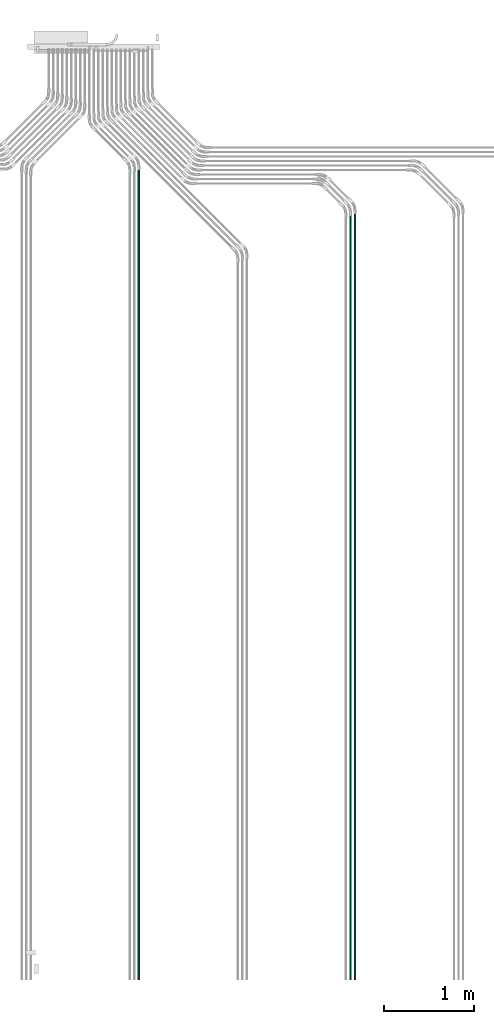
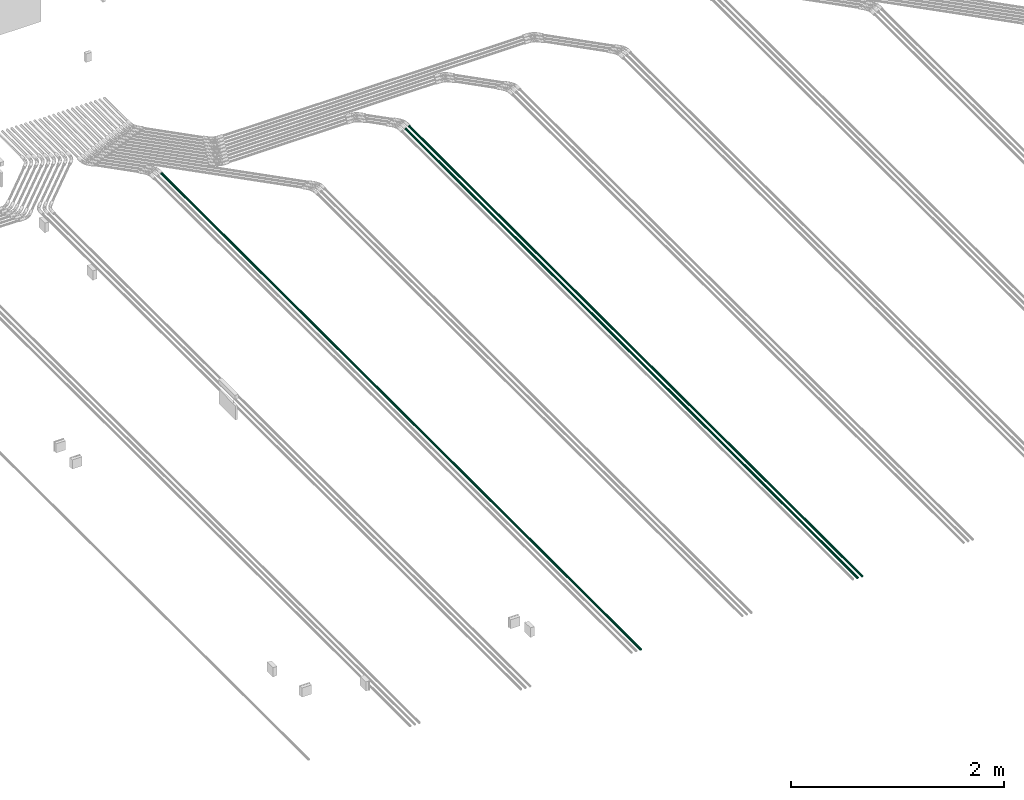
# One storey, part 34 of 51: 3 flow segments.
"""IFC2X3 building model written with IfcOpenShell, lengths in millimetres."""

from ifc_helpers import new_model, entity, si_unit, converted_unit, derived_unit, direction, frame, place, context, subcontext, project, spatial, faceted_brep, type_object, element, save


model = new_model("IFC2X3")

# Units and contexts
model_context = context("Model", 3, precision=0.01, world=frame((0.0, 4.29681676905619e-09, 0.0)), true_north=direction((4.01073788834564e-13, 1.0)))
plan_context = context("Plan", 3, precision=0.01, world=frame((0.0, 4.29681676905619e-09, 0.0)), true_north=direction((4.01073788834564e-13, 1.0)))
body_context = subcontext(model_context, "Body", "Model", "MODEL_VIEW")
ifc_project = project(units=[converted_unit("PLANEANGLEUNIT", "DEGREE", entity("IfcPositiveLengthMeasure", 0.0174532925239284), si_unit("PLANEANGLEUNIT", "RADIAN"), dimensions=[0, 0, 0, 0, 0, 0, 0]), si_unit("AREAUNIT", "SQUARE_METRE"), si_unit("LENGTHUNIT", "METRE", prefix="MILLI"), si_unit("MASSUNIT", "GRAM", prefix="KILO"), si_unit("POWERUNIT", "WATT"), si_unit("PRESSUREUNIT", "PASCAL"), si_unit("FORCEUNIT", "NEWTON", prefix="KILO"), si_unit("ELECTRICVOLTAGEUNIT", "VOLT"), si_unit("ELECTRICCURRENTUNIT", "AMPERE"), si_unit("THERMODYNAMICTEMPERATUREUNIT", "DEGREE_CELSIUS"), si_unit("TIMEUNIT", "SECOND"), si_unit("VOLUMEUNIT", "CUBIC_METRE"), derived_unit("LINEARVELOCITYUNIT", [(si_unit("LENGTHUNIT", "METRE"), 1), (si_unit("TIMEUNIT", "SECOND"), -1)]), derived_unit("VOLUMETRICFLOWRATEUNIT", [(si_unit("VOLUMEUNIT", "CUBIC_METRE"), 1), (si_unit("TIMEUNIT", "SECOND"), -1)]), derived_unit("THERMALTRANSMITTANCEUNIT", [(si_unit("POWERUNIT", "WATT"), 1), (si_unit("THERMODYNAMICTEMPERATUREUNIT", "KELVIN"), -1), (si_unit("AREAUNIT", "SQUARE_METRE"), -1)]), derived_unit("SOUNDPRESSUREUNIT", [(si_unit("PRESSUREUNIT", "PASCAL"), 1)])], contexts=[model_context, plan_context])

# Site, building, storey
site_placement = place(None, frame((0.0, -4.29681676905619e-09, 0.0), z_axis=(0.0, 0.0, 1.0), x_axis=(1.0, 0.0, 0.0)))
site = spatial("IfcSite", under=ifc_project, at=site_placement, Name="ENGM", CompositionType="ELEMENT")
building_placement = place(site_placement, frame((0.0, 4.29681676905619e-09, 0.0), z_axis=(0.0, 0.0, 1.0), x_axis=(1.0, 0.0, 0.0)))
building = spatial("IfcBuilding", under=site, at=building_placement, Name="TI", CompositionType="ELEMENT")
storey_placement = place(building_placement, frame((0.0, 0.0, 210900.0), z_axis=(0.0, 0.0, 1.0), x_axis=(1.0, 0.0, 0.0)))
storey = spatial("IfcBuildingStorey", under=building, at=storey_placement, Name="Nivå F", CompositionType="ELEMENT", Elevation=210900.0)

# Flow segments
cable_carrier_segment_type = type_object("IfcCableCarrierSegmentType", Name="Trekkerør, korrugert", PredefinedType="CONDUITSEGMENT")
flow_segment_1_placement = place(storey_placement, frame((601625.0, 697997.77822, -56.7999999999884), z_axis=(0.0, 0.0, 1.0), x_axis=(0.0, -1.0, 0.0)))
element("IfcFlowSegment", 1, at=flow_segment_1_placement, inside=storey, type_object=cable_carrier_segment_type, Name="Trekkerør, korrugert", context=body_context, shape_type="Brep", body=[
    faceted_brep([(8997.77822000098, 10.5, 0.0), (8997.77822000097, 10.3404814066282, -1.82330586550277), (0.0, 10.3404814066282, -1.82330586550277), (0.0, 10.5, 0.0), (8997.77822000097, 9.86677251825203, -3.59121150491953), (0.0, 9.86677251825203, -3.59121150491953), (8997.77822000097, 9.0932667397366, -5.25), (0.0, 9.0932667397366, -5.25), (8997.77822000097, 8.04346665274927, -6.74926990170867), (0.0, 8.04346665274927, -6.74926990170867), (8997.77822000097, 6.74926990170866, -8.04346665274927), (0.0, 6.74926990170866, -8.04346665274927), (8997.77822000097, 5.25, -9.09326673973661), (0.0, 5.25, -9.09326673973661), (8997.77822000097, 3.59121150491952, -9.86677251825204), (0.0, 3.59121150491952, -9.86677251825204), (8997.77822000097, 1.82330586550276, -10.3404814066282), (0.0, 1.82330586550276, -10.3404814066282), (8997.77822000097, -1.92881870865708e-15, -10.5), (0.0, -1.92881870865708e-15, -10.5), (8997.77822000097, -1.82330586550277, -10.3404814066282), (0.0, -1.82330586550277, -10.3404814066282), (8997.77822000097, -3.59121150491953, -9.86677251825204), (0.0, -3.59121150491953, -9.86677251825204), (8997.77822000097, -5.25, -9.0932667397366), (0.0, -5.25, -9.0932667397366), (8997.77822000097, -6.74926990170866, -8.04346665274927), (0.0, -6.74926990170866, -8.04346665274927), (8997.77822000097, -8.04346665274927, -6.74926990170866), (0.0, -8.04346665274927, -6.74926990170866), (8997.77822000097, -9.09326673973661, -5.25), (0.0, -9.09326673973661, -5.25), (8997.77822000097, -9.86677251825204, -3.59121150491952), (0.0, -9.86677251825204, -3.59121150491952), (8997.77822000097, -10.3404814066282, -1.82330586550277), (0.0, -10.3404814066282, -1.82330586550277), (8997.77822000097, -10.5, 1.28587913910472e-15), (0.0, -10.5, 1.28587913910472e-15), (8997.77822000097, -10.3404814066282, 1.82330586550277), (0.0, -10.3404814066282, 1.82330586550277), (8997.77822000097, -9.86677251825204, 3.59121150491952), (0.0, -9.86677251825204, 3.59121150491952), (8997.77822000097, -9.09326673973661, 5.25), (0.0, -9.09326673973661, 5.25), (8997.77822000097, -8.04346665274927, 6.74926990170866), (0.0, -8.04346665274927, 6.74926990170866), (8997.77822000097, -6.74926990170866, 8.04346665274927), (0.0, -6.74926990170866, 8.04346665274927), (8997.77822000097, -5.25, 9.09326673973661), (0.0, -5.25, 9.09326673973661), (8997.77822000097, -3.59121150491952, 9.86677251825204), (0.0, -3.59121150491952, 9.86677251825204), (8997.77822000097, -1.82330586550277, 10.3404814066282), (0.0, -1.82330586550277, 10.3404814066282), (8997.77822000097, 6.4293956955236e-16, 10.5), (0.0, 6.4293956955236e-16, 10.5), (8997.77822000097, 1.82330586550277, 10.3404814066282), (0.0, 1.82330586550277, 10.3404814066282), (8997.77822000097, 3.59121150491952, 9.86677251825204), (0.0, 3.59121150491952, 9.86677251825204), (8997.77822000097, 5.25, 9.09326673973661), (0.0, 5.25, 9.09326673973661), (8997.77822000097, 6.74926990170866, 8.04346665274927), (0.0, 6.74926990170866, 8.04346665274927), (8997.77822000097, 8.04346665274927, 6.74926990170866), (0.0, 8.04346665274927, 6.74926990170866), (8997.77822000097, 9.09326673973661, 5.25), (0.0, 9.09326673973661, 5.25), (8997.77822000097, 9.86677251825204, 3.59121150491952), (0.0, 9.86677251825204, 3.59121150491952), (8997.77822000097, 10.3404814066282, 1.82330586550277), (0.0, 10.3404814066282, 1.82330586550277), (8997.77822000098, 12.3100969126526, -2.17060222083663), (8997.77822000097, 12.5, 0.0), (0.0, 12.5, 0.0), (0.0, 12.3100969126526, -2.17060222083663), (8997.77822000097, 12.3100969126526, 2.17060222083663), (0.0, 12.3100969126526, 2.17060222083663), (8997.77822000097, 11.7461577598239, 4.27525179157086), (0.0, 11.7461577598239, 4.27525179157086), (8997.77822000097, 10.8253175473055, 6.25), (0.0, 10.8253175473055, 6.25), (8997.77822000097, 9.57555553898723, 8.03484512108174), (0.0, 9.57555553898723, 8.03484512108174), (8997.77822000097, 8.03484512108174, 9.57555553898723), (0.0, 8.03484512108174, 9.57555553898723), (8997.77822000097, 6.25, 10.8253175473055), (0.0, 6.25, 10.8253175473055), (8997.77822000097, 4.27525179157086, 11.7461577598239), (0.0, 4.27525179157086, 11.7461577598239), (8997.77822000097, 2.17060222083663, 12.3100969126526), (0.0, 2.17060222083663, 12.3100969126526), (8997.77822000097, 7.65404249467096e-16, 12.5), (0.0, 7.65404249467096e-16, 12.5), (8997.77822000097, -2.17060222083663, 12.3100969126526), (0.0, -2.17060222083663, 12.3100969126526), (8997.77822000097, -4.27525179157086, 11.7461577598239), (0.0, -4.27525179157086, 11.7461577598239), (8997.77822000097, -6.25, 10.8253175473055), (0.0, -6.25, 10.8253175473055), (8997.77822000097, -8.03484512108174, 9.57555553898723), (0.0, -8.03484512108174, 9.57555553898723), (8997.77822000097, -9.57555553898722, 8.03484512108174), (0.0, -9.57555553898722, 8.03484512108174), (8997.77822000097, -10.8253175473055, 6.25), (0.0, -10.8253175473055, 6.25), (8997.77822000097, -11.7461577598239, 4.27525179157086), (0.0, -11.7461577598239, 4.27525179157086), (8997.77822000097, -12.3100969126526, 2.17060222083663), (0.0, -12.3100969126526, 2.17060222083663), (8997.77822000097, -12.5, 1.53080849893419e-15), (0.0, -12.5, 1.53080849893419e-15), (8997.77822000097, -12.3100969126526, -2.17060222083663), (0.0, -12.3100969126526, -2.17060222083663), (8997.77822000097, -11.7461577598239, -4.27525179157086), (0.0, -11.7461577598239, -4.27525179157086), (8997.77822000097, -10.8253175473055, -6.25), (0.0, -10.8253175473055, -6.25), (8997.77822000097, -9.57555553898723, -8.03484512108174), (0.0, -9.57555553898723, -8.03484512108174), (8997.77822000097, -8.03484512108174, -9.57555553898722), (0.0, -8.03484512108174, -9.57555553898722), (8997.77822000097, -6.25000000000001, -10.8253175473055), (0.0, -6.25000000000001, -10.8253175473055), (8997.77822000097, -4.27525179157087, -11.7461577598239), (0.0, -4.27525179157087, -11.7461577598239), (8997.77822000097, -2.17060222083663, -12.3100969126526), (0.0, -2.17060222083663, -12.3100969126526), (8997.77822000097, -2.29621274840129e-15, -12.5), (0.0, -2.29621274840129e-15, -12.5), (8997.77822000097, 2.17060222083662, -12.3100969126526), (0.0, 2.17060222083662, -12.3100969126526), (8997.77822000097, 4.27525179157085, -11.7461577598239), (0.0, 4.27525179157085, -11.7461577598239), (8997.77822000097, 6.25, -10.8253175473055), (0.0, 6.25, -10.8253175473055), (8997.77822000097, 8.03484512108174, -9.57555553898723), (0.0, 8.03484512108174, -9.57555553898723), (8997.77822000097, 9.57555553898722, -8.03484512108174), (0.0, 9.57555553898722, -8.03484512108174), (8997.77822000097, 10.8253175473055, -6.25000000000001), (0.0, 10.8253175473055, -6.25000000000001), (8997.77822000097, 11.7461577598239, -4.27525179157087), (0.0, 11.7461577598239, -4.27525179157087)], [[[0, 1, 2, 3]], [[1, 4, 5, 2]], [[4, 6, 7, 5]], [[6, 8, 9, 7]], [[8, 10, 11, 9]], [[10, 12, 13, 11]], [[12, 14, 15, 13]], [[14, 16, 17, 15]], [[16, 18, 19, 17]], [[18, 20, 21, 19]], [[20, 22, 23, 21]], [[22, 24, 25, 23]], [[24, 26, 27, 25]], [[26, 28, 29, 27]], [[28, 30, 31, 29]], [[30, 32, 33, 31]], [[32, 34, 35, 33]], [[34, 36, 37, 35]], [[36, 38, 39, 37]], [[38, 40, 41, 39]], [[40, 42, 43, 41]], [[42, 44, 45, 43]], [[44, 46, 47, 45]], [[46, 48, 49, 47]], [[48, 50, 51, 49]], [[50, 52, 53, 51]], [[52, 54, 55, 53]], [[54, 56, 57, 55]], [[56, 58, 59, 57]], [[58, 60, 61, 59]], [[60, 62, 63, 61]], [[62, 64, 65, 63]], [[64, 66, 67, 65]], [[66, 68, 69, 67]], [[68, 70, 71, 69]], [[70, 0, 3, 71]], [[72, 73, 74, 75]], [[73, 76, 77, 74]], [[76, 78, 79, 77]], [[78, 80, 81, 79]], [[80, 82, 83, 81]], [[82, 84, 85, 83]], [[84, 86, 87, 85]], [[86, 88, 89, 87]], [[88, 90, 91, 89]], [[90, 92, 93, 91]], [[92, 94, 95, 93]], [[94, 96, 97, 95]], [[96, 98, 99, 97]], [[98, 100, 101, 99]], [[100, 102, 103, 101]], [[102, 104, 105, 103]], [[104, 106, 107, 105]], [[106, 108, 109, 107]], [[108, 110, 111, 109]], [[110, 112, 113, 111]], [[112, 114, 115, 113]], [[114, 116, 117, 115]], [[116, 118, 119, 117]], [[118, 120, 121, 119]], [[120, 122, 123, 121]], [[122, 124, 125, 123]], [[124, 126, 127, 125]], [[126, 128, 129, 127]], [[128, 130, 131, 129]], [[130, 132, 133, 131]], [[132, 134, 135, 133]], [[134, 136, 137, 135]], [[136, 138, 139, 137]], [[138, 140, 141, 139]], [[140, 142, 143, 141]], [[142, 72, 75, 143]], [[75, 74, 77, 79, 81, 83, 85, 87, 89, 91, 93, 95, 97, 99, 101, 103, 105, 107, 109, 111, 113, 115, 117, 119, 121, 123, 125, 127, 129, 131, 133, 135, 137, 139, 141, 143], [3, 2, 5, 7, 9, 11, 13, 15, 17, 19, 21, 23, 25, 27, 29, 31, 33, 35, 37, 39, 41, 43, 45, 47, 49, 51, 53, 55, 57, 59, 61, 63, 65, 67, 69, 71]], [[142, 140, 138, 136, 134, 132, 130, 128, 126, 124, 122, 120, 118, 116, 114, 112, 110, 108, 106, 104, 102, 100, 98, 96, 94, 92, 90, 88, 86, 84, 82, 80, 78, 76, 73, 72], [70, 68, 66, 64, 62, 60, 58, 56, 54, 52, 50, 48, 46, 44, 42, 40, 38, 36, 34, 32, 30, 28, 26, 24, 22, 20, 18, 16, 14, 12, 10, 8, 6, 4, 1, 0]]], orient=[[False], [False], [False], [False], [False], [False], [False], [False], [False], [False], [False], [False], [False], [False], [False], [False], [False], [False], [False], [False], [False], [False], [False], [False], [False], [False], [False], [False], [False], [False], [False], [False], [False], [False], [False], [False], [False], [False], [False], [False], [False], [False], [False], [False], [False], [False], [False], [False], [False], [False], [False], [False], [False], [False], [False], [False], [False], [False], [False], [False], [False], [False], [False], [False], [False], [False], [False], [False], [False], [False], [False], [False], [False, False], [False, False]]),
])
flow_segment_2_placement = place(storey_placement, frame((603974.59, 677849.68631, -56.7999999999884), z_axis=(0.0, 0.0, 1.0), x_axis=(0.0, 1.0, 0.0)))
element("IfcFlowSegment", 2, at=flow_segment_2_placement, inside=storey, type_object=cable_carrier_segment_type, Name="Trekkerør, korrugert", context=body_context, shape_type="Brep", body=[
    faceted_brep([(11150.313689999, 10.3404814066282, -1.82330586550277), (11150.313689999, 10.5, 0.0), (19634.6, 10.5, 0.0), (19634.6, 10.3404814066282, -1.82330586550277), (11150.313689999, 9.86677251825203, -3.59121150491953), (19634.6, 9.86677251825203, -3.59121150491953), (11150.313689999, 9.0932667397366, -5.25), (19634.6, 9.0932667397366, -5.25), (11150.313689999, 8.04346665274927, -6.74926990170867), (19634.6, 8.04346665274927, -6.74926990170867), (11150.313689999, 6.74926990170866, -8.04346665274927), (19634.6, 6.74926990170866, -8.04346665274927), (11150.313689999, 5.25, -9.09326673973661), (19634.6, 5.25, -9.09326673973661), (11150.313689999, 3.59121150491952, -9.86677251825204), (19634.6, 3.59121150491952, -9.86677251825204), (11150.313689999, 1.82330586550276, -10.3404814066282), (19634.6, 1.82330586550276, -10.3404814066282), (11150.313689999, -1.92881870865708e-15, -10.5), (19634.6, -1.92881870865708e-15, -10.5), (11150.313689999, -1.82330586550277, -10.3404814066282), (19634.6, -1.82330586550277, -10.3404814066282), (11150.313689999, -3.59121150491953, -9.86677251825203), (19634.6, -3.59121150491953, -9.86677251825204), (11150.313689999, -5.25, -9.0932667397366), (19634.6, -5.25, -9.0932667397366), (11150.313689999, -6.74926990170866, -8.04346665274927), (19634.6, -6.74926990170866, -8.04346665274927), (11150.313689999, -8.04346665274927, -6.74926990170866), (19634.6, -8.04346665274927, -6.74926990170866), (11150.313689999, -9.09326673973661, -5.25), (19634.6, -9.09326673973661, -5.25), (11150.313689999, -9.86677251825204, -3.59121150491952), (19634.6, -9.86677251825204, -3.59121150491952), (11150.313689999, -10.3404814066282, -1.82330586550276), (19634.6, -10.3404814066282, -1.82330586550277), (11150.313689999, -10.5, 1.28587913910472e-15), (19634.6, -10.5, 1.28587913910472e-15), (11150.313689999, -10.3404814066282, 1.82330586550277), (19634.6, -10.3404814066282, 1.82330586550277), (11150.313689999, -9.86677251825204, 3.59121150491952), (19634.6, -9.86677251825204, 3.59121150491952), (11150.313689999, -9.09326673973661, 5.25), (19634.6, -9.09326673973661, 5.25), (11150.313689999, -8.04346665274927, 6.74926990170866), (19634.6, -8.04346665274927, 6.74926990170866), (11150.313689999, -6.74926990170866, 8.04346665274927), (19634.6, -6.74926990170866, 8.04346665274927), (11150.313689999, -5.25, 9.09326673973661), (19634.6, -5.25, 9.09326673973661), (11150.313689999, -3.59121150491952, 9.86677251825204), (19634.6, -3.59121150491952, 9.86677251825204), (11150.313689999, -1.82330586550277, 10.3404814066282), (19634.6, -1.82330586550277, 10.3404814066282), (11150.313689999, 6.4293956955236e-16, 10.5), (19634.6, 6.4293956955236e-16, 10.5), (11150.313689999, 1.82330586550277, 10.3404814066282), (19634.6, 1.82330586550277, 10.3404814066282), (11150.313689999, 3.59121150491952, 9.86677251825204), (19634.6, 3.59121150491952, 9.86677251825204), (11150.313689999, 5.25, 9.09326673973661), (19634.6, 5.25, 9.09326673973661), (11150.313689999, 6.74926990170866, 8.04346665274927), (19634.6, 6.74926990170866, 8.04346665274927), (11150.313689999, 8.04346665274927, 6.74926990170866), (19634.6, 8.04346665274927, 6.74926990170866), (11150.313689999, 9.09326673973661, 5.25), (19634.6, 9.09326673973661, 5.25), (11150.313689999, 9.86677251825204, 3.59121150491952), (19634.6, 9.86677251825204, 3.59121150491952), (11150.313689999, 10.3404814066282, 1.82330586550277), (19634.6, 10.3404814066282, 1.82330586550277), (11150.313689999, 12.5, 0.0), (11150.313689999, 12.3100969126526, -2.17060222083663), (19634.6, 12.3100969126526, -2.17060222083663), (19634.6, 12.5, 0.0), (11150.313689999, 12.3100969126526, 2.17060222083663), (19634.6, 12.3100969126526, 2.17060222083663), (11150.313689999, 11.7461577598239, 4.27525179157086), (19634.6, 11.7461577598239, 4.27525179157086), (11150.313689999, 10.8253175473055, 6.25), (19634.6, 10.8253175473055, 6.25), (11150.313689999, 9.57555553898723, 8.03484512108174), (19634.6, 9.57555553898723, 8.03484512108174), (11150.313689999, 8.03484512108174, 9.57555553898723), (19634.6, 8.03484512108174, 9.57555553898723), (11150.313689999, 6.25, 10.8253175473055), (19634.6, 6.25, 10.8253175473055), (11150.313689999, 4.27525179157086, 11.7461577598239), (19634.6, 4.27525179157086, 11.7461577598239), (11150.313689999, 2.17060222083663, 12.3100969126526), (19634.6, 2.17060222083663, 12.3100969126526), (11150.313689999, 7.65404249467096e-16, 12.5), (19634.6, 7.65404249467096e-16, 12.5), (11150.313689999, -2.17060222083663, 12.3100969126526), (19634.6, -2.17060222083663, 12.3100969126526), (11150.313689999, -4.27525179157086, 11.7461577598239), (19634.6, -4.27525179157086, 11.7461577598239), (11150.313689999, -6.25, 10.8253175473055), (19634.6, -6.25, 10.8253175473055), (11150.313689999, -8.03484512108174, 9.57555553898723), (19634.6, -8.03484512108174, 9.57555553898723), (11150.313689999, -9.57555553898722, 8.03484512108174), (19634.6, -9.57555553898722, 8.03484512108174), (11150.313689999, -10.8253175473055, 6.25), (19634.6, -10.8253175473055, 6.25), (11150.313689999, -11.7461577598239, 4.27525179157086), (19634.6, -11.7461577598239, 4.27525179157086), (11150.313689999, -12.3100969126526, 2.17060222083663), (19634.6, -12.3100969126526, 2.17060222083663), (11150.313689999, -12.5, 1.53080849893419e-15), (19634.6, -12.5, 1.53080849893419e-15), (11150.313689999, -12.3100969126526, -2.17060222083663), (19634.6, -12.3100969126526, -2.17060222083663), (11150.313689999, -11.7461577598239, -4.27525179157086), (19634.6, -11.7461577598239, -4.27525179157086), (11150.313689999, -10.8253175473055, -6.25), (19634.6, -10.8253175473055, -6.25), (11150.313689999, -9.57555553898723, -8.03484512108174), (19634.6, -9.57555553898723, -8.03484512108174), (11150.313689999, -8.03484512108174, -9.57555553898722), (19634.6, -8.03484512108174, -9.57555553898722), (11150.313689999, -6.25000000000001, -10.8253175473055), (19634.6, -6.25000000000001, -10.8253175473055), (11150.313689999, -4.27525179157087, -11.7461577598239), (19634.6, -4.27525179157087, -11.7461577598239), (11150.313689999, -2.17060222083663, -12.3100969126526), (19634.6, -2.17060222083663, -12.3100969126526), (11150.313689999, -2.29621274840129e-15, -12.5), (19634.6, -2.29621274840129e-15, -12.5), (11150.313689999, 2.17060222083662, -12.3100969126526), (19634.6, 2.17060222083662, -12.3100969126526), (11150.313689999, 4.27525179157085, -11.7461577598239), (19634.6, 4.27525179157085, -11.7461577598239), (11150.313689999, 6.25, -10.8253175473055), (19634.6, 6.25, -10.8253175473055), (11150.313689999, 8.03484512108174, -9.57555553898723), (19634.6, 8.03484512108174, -9.57555553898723), (11150.313689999, 9.57555553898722, -8.03484512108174), (19634.6, 9.57555553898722, -8.03484512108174), (11150.313689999, 10.8253175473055, -6.25000000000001), (19634.6, 10.8253175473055, -6.25000000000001), (11150.313689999, 11.7461577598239, -4.27525179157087), (19634.6, 11.7461577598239, -4.27525179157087)], [[[0, 1, 2, 3]], [[4, 0, 3, 5]], [[6, 4, 5, 7]], [[8, 6, 7, 9]], [[10, 8, 9, 11]], [[12, 10, 11, 13]], [[14, 12, 13, 15]], [[16, 14, 15, 17]], [[18, 16, 17, 19]], [[20, 18, 19, 21]], [[22, 20, 21, 23]], [[24, 22, 23, 25]], [[26, 24, 25, 27]], [[28, 26, 27, 29]], [[30, 28, 29, 31]], [[32, 30, 31, 33]], [[34, 32, 33, 35]], [[36, 34, 35, 37]], [[38, 36, 37, 39]], [[40, 38, 39, 41]], [[42, 40, 41, 43]], [[44, 42, 43, 45]], [[46, 44, 45, 47]], [[48, 46, 47, 49]], [[50, 48, 49, 51]], [[52, 50, 51, 53]], [[54, 52, 53, 55]], [[56, 54, 55, 57]], [[58, 56, 57, 59]], [[60, 58, 59, 61]], [[62, 60, 61, 63]], [[64, 62, 63, 65]], [[66, 64, 65, 67]], [[68, 66, 67, 69]], [[70, 68, 69, 71]], [[1, 70, 71, 2]], [[72, 73, 74, 75]], [[76, 72, 75, 77]], [[78, 76, 77, 79]], [[80, 78, 79, 81]], [[82, 80, 81, 83]], [[84, 82, 83, 85]], [[86, 84, 85, 87]], [[88, 86, 87, 89]], [[90, 88, 89, 91]], [[92, 90, 91, 93]], [[94, 92, 93, 95]], [[96, 94, 95, 97]], [[98, 96, 97, 99]], [[100, 98, 99, 101]], [[102, 100, 101, 103]], [[104, 102, 103, 105]], [[106, 104, 105, 107]], [[108, 106, 107, 109]], [[110, 108, 109, 111]], [[112, 110, 111, 113]], [[114, 112, 113, 115]], [[116, 114, 115, 117]], [[118, 116, 117, 119]], [[120, 118, 119, 121]], [[122, 120, 121, 123]], [[124, 122, 123, 125]], [[126, 124, 125, 127]], [[128, 126, 127, 129]], [[130, 128, 129, 131]], [[132, 130, 131, 133]], [[134, 132, 133, 135]], [[136, 134, 135, 137]], [[138, 136, 137, 139]], [[140, 138, 139, 141]], [[142, 140, 141, 143]], [[73, 142, 143, 74]], [[75, 74, 143, 141, 139, 137, 135, 133, 131, 129, 127, 125, 123, 121, 119, 117, 115, 113, 111, 109, 107, 105, 103, 101, 99, 97, 95, 93, 91, 89, 87, 85, 83, 81, 79, 77], [2, 71, 69, 67, 65, 63, 61, 59, 57, 55, 53, 51, 49, 47, 45, 43, 41, 39, 37, 35, 33, 31, 29, 27, 25, 23, 21, 19, 17, 15, 13, 11, 9, 7, 5, 3]], [[76, 78, 80, 82, 84, 86, 88, 90, 92, 94, 96, 98, 100, 102, 104, 106, 108, 110, 112, 114, 116, 118, 120, 122, 124, 126, 128, 130, 132, 134, 136, 138, 140, 142, 73, 72], [4, 6, 8, 10, 12, 14, 16, 18, 20, 22, 24, 26, 28, 30, 32, 34, 36, 38, 40, 42, 44, 46, 48, 50, 52, 54, 56, 58, 60, 62, 64, 66, 68, 70, 1, 0]]], orient=[[False], [False], [False], [False], [False], [False], [False], [False], [False], [False], [False], [False], [False], [False], [False], [False], [False], [False], [False], [False], [False], [False], [False], [False], [False], [False], [False], [False], [False], [False], [False], [False], [False], [False], [False], [False], [False], [False], [False], [False], [False], [False], [False], [False], [False], [False], [False], [False], [False], [False], [False], [False], [False], [False], [False], [False], [False], [False], [False], [False], [False], [False], [False], [False], [False], [False], [False], [False], [False], [False], [False], [False], [False, False], [False, False]]),
])
flow_segment_3_placement = place(storey_placement, frame((604024.59, 677828.97563, -56.7999999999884), z_axis=(0.0, 0.0, 1.0), x_axis=(0.0, 1.0, 0.0)))
element("IfcFlowSegment", 3, at=flow_segment_3_placement, inside=storey, type_object=cable_carrier_segment_type, Name="Trekkerør, korrugert", context=body_context, shape_type="Brep", body=[
    faceted_brep([(11171.024369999, 10.3404814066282, -1.82330586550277), (11171.024369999, 10.5, 0.0), (19676.0, 10.5, 0.0), (19676.0, 10.3404814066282, -1.82330586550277), (11171.024369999, 9.86677251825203, -3.59121150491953), (19676.0, 9.86677251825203, -3.59121150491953), (11171.024369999, 9.0932667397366, -5.25), (19676.0, 9.0932667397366, -5.25), (11171.024369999, 8.04346665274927, -6.74926990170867), (19676.0, 8.04346665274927, -6.74926990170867), (11171.024369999, 6.74926990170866, -8.04346665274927), (19676.0, 6.74926990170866, -8.04346665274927), (11171.024369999, 5.25, -9.09326673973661), (19676.0, 5.25, -9.09326673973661), (11171.024369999, 3.59121150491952, -9.86677251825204), (19676.0, 3.59121150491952, -9.86677251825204), (11171.024369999, 1.82330586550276, -10.3404814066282), (19676.0, 1.82330586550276, -10.3404814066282), (11171.024369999, -1.92881870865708e-15, -10.5), (19676.0, -1.92881870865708e-15, -10.5), (11171.024369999, -1.82330586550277, -10.3404814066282), (19676.0, -1.82330586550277, -10.3404814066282), (11171.024369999, -3.59121150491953, -9.86677251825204), (19676.0, -3.59121150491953, -9.86677251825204), (11171.024369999, -5.25, -9.0932667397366), (19676.0, -5.25, -9.0932667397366), (11171.024369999, -6.74926990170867, -8.04346665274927), (19676.0, -6.74926990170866, -8.04346665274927), (11171.024369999, -8.04346665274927, -6.74926990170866), (19676.0, -8.04346665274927, -6.74926990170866), (11171.024369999, -9.09326673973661, -5.25), (19676.0, -9.09326673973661, -5.25), (11171.024369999, -9.86677251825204, -3.59121150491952), (19676.0, -9.86677251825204, -3.59121150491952), (11171.024369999, -10.3404814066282, -1.82330586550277), (19676.0, -10.3404814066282, -1.82330586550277), (11171.024369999, -10.5, 1.28587913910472e-15), (19676.0, -10.5, 1.28587913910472e-15), (11171.024369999, -10.3404814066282, 1.82330586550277), (19676.0, -10.3404814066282, 1.82330586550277), (11171.024369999, -9.86677251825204, 3.59121150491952), (19676.0, -9.86677251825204, 3.59121150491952), (11171.024369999, -9.09326673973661, 5.25), (19676.0, -9.09326673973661, 5.25), (11171.024369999, -8.04346665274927, 6.74926990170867), (19676.0, -8.04346665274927, 6.74926990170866), (11171.024369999, -6.74926990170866, 8.04346665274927), (19676.0, -6.74926990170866, 8.04346665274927), (11171.024369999, -5.25, 9.09326673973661), (19676.0, -5.25, 9.09326673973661), (11171.024369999, -3.59121150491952, 9.86677251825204), (19676.0, -3.59121150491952, 9.86677251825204), (11171.024369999, -1.82330586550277, 10.3404814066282), (19676.0, -1.82330586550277, 10.3404814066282), (11171.024369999, 6.42939569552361e-16, 10.5), (19676.0, 6.4293956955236e-16, 10.5), (11171.024369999, 1.82330586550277, 10.3404814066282), (19676.0, 1.82330586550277, 10.3404814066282), (11171.024369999, 3.59121150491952, 9.86677251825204), (19676.0, 3.59121150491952, 9.86677251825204), (11171.024369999, 5.25, 9.09326673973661), (19676.0, 5.25, 9.09326673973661), (11171.024369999, 6.74926990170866, 8.04346665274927), (19676.0, 6.74926990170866, 8.04346665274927), (11171.024369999, 8.04346665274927, 6.74926990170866), (19676.0, 8.04346665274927, 6.74926990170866), (11171.024369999, 9.09326673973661, 5.25), (19676.0, 9.09326673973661, 5.25), (11171.024369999, 9.86677251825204, 3.59121150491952), (19676.0, 9.86677251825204, 3.59121150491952), (11171.024369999, 10.3404814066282, 1.82330586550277), (19676.0, 10.3404814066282, 1.82330586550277), (11171.024369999, 12.5, 0.0), (11171.024369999, 12.3100969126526, -2.17060222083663), (19676.0, 12.3100969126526, -2.17060222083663), (19676.0, 12.5, 0.0), (11171.024369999, 12.3100969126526, 2.17060222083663), (19676.0, 12.3100969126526, 2.17060222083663), (11171.024369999, 11.7461577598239, 4.27525179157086), (19676.0, 11.7461577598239, 4.27525179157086), (11171.024369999, 10.8253175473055, 6.25), (19676.0, 10.8253175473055, 6.25), (11171.024369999, 9.57555553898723, 8.03484512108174), (19676.0, 9.57555553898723, 8.03484512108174), (11171.024369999, 8.03484512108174, 9.57555553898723), (19676.0, 8.03484512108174, 9.57555553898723), (11171.024369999, 6.25, 10.8253175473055), (19676.0, 6.25, 10.8253175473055), (11171.024369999, 4.27525179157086, 11.7461577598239), (19676.0, 4.27525179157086, 11.7461577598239), (11171.024369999, 2.17060222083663, 12.3100969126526), (19676.0, 2.17060222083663, 12.3100969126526), (11171.024369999, 7.65404249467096e-16, 12.5), (19676.0, 7.65404249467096e-16, 12.5), (11171.024369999, -2.17060222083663, 12.3100969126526), (19676.0, -2.17060222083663, 12.3100969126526), (11171.024369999, -4.27525179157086, 11.7461577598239), (19676.0, -4.27525179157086, 11.7461577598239), (11171.024369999, -6.25, 10.8253175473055), (19676.0, -6.25, 10.8253175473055), (11171.024369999, -8.03484512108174, 9.57555553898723), (19676.0, -8.03484512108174, 9.57555553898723), (11171.024369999, -9.57555553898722, 8.03484512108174), (19676.0, -9.57555553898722, 8.03484512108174), (11171.024369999, -10.8253175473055, 6.25), (19676.0, -10.8253175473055, 6.25), (11171.024369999, -11.7461577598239, 4.27525179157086), (19676.0, -11.7461577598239, 4.27525179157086), (11171.024369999, -12.3100969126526, 2.17060222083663), (19676.0, -12.3100969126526, 2.17060222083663), (11171.024369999, -12.5, 1.53080849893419e-15), (19676.0, -12.5, 1.53080849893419e-15), (11171.024369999, -12.3100969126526, -2.17060222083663), (19676.0, -12.3100969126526, -2.17060222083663), (11171.024369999, -11.7461577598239, -4.27525179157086), (19676.0, -11.7461577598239, -4.27525179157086), (11171.024369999, -10.8253175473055, -6.25), (19676.0, -10.8253175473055, -6.25), (11171.024369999, -9.57555553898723, -8.03484512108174), (19676.0, -9.57555553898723, -8.03484512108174), (11171.024369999, -8.03484512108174, -9.57555553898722), (19676.0, -8.03484512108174, -9.57555553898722), (11171.024369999, -6.25000000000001, -10.8253175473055), (19676.0, -6.25000000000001, -10.8253175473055), (11171.024369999, -4.27525179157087, -11.7461577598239), (19676.0, -4.27525179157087, -11.7461577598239), (11171.024369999, -2.17060222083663, -12.3100969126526), (19676.0, -2.17060222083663, -12.3100969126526), (11171.024369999, -2.29621274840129e-15, -12.5), (19676.0, -2.29621274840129e-15, -12.5), (11171.024369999, 2.17060222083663, -12.3100969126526), (19676.0, 2.17060222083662, -12.3100969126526), (11171.024369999, 4.27525179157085, -11.7461577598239), (19676.0, 4.27525179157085, -11.7461577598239), (11171.024369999, 6.25, -10.8253175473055), (19676.0, 6.25, -10.8253175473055), (11171.024369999, 8.03484512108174, -9.57555553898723), (19676.0, 8.03484512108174, -9.57555553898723), (11171.024369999, 9.57555553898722, -8.03484512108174), (19676.0, 9.57555553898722, -8.03484512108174), (11171.024369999, 10.8253175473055, -6.25000000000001), (19676.0, 10.8253175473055, -6.25000000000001), (11171.024369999, 11.7461577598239, -4.27525179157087), (19676.0, 11.7461577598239, -4.27525179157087)], [[[0, 1, 2, 3]], [[4, 0, 3, 5]], [[6, 4, 5, 7]], [[8, 6, 7, 9]], [[10, 8, 9, 11]], [[12, 10, 11, 13]], [[14, 12, 13, 15]], [[16, 14, 15, 17]], [[18, 16, 17, 19]], [[20, 18, 19, 21]], [[22, 20, 21, 23]], [[24, 22, 23, 25]], [[26, 24, 25, 27]], [[28, 26, 27, 29]], [[30, 28, 29, 31]], [[32, 30, 31, 33]], [[34, 32, 33, 35]], [[36, 34, 35, 37]], [[38, 36, 37, 39]], [[40, 38, 39, 41]], [[42, 40, 41, 43]], [[44, 42, 43, 45]], [[46, 44, 45, 47]], [[48, 46, 47, 49]], [[50, 48, 49, 51]], [[52, 50, 51, 53]], [[54, 52, 53, 55]], [[56, 54, 55, 57]], [[58, 56, 57, 59]], [[60, 58, 59, 61]], [[62, 60, 61, 63]], [[64, 62, 63, 65]], [[66, 64, 65, 67]], [[68, 66, 67, 69]], [[70, 68, 69, 71]], [[1, 70, 71, 2]], [[72, 73, 74, 75]], [[76, 72, 75, 77]], [[78, 76, 77, 79]], [[80, 78, 79, 81]], [[82, 80, 81, 83]], [[84, 82, 83, 85]], [[86, 84, 85, 87]], [[88, 86, 87, 89]], [[90, 88, 89, 91]], [[92, 90, 91, 93]], [[94, 92, 93, 95]], [[96, 94, 95, 97]], [[98, 96, 97, 99]], [[100, 98, 99, 101]], [[102, 100, 101, 103]], [[104, 102, 103, 105]], [[106, 104, 105, 107]], [[108, 106, 107, 109]], [[110, 108, 109, 111]], [[112, 110, 111, 113]], [[114, 112, 113, 115]], [[116, 114, 115, 117]], [[118, 116, 117, 119]], [[120, 118, 119, 121]], [[122, 120, 121, 123]], [[124, 122, 123, 125]], [[126, 124, 125, 127]], [[128, 126, 127, 129]], [[130, 128, 129, 131]], [[132, 130, 131, 133]], [[134, 132, 133, 135]], [[136, 134, 135, 137]], [[138, 136, 137, 139]], [[140, 138, 139, 141]], [[142, 140, 141, 143]], [[73, 142, 143, 74]], [[75, 74, 143, 141, 139, 137, 135, 133, 131, 129, 127, 125, 123, 121, 119, 117, 115, 113, 111, 109, 107, 105, 103, 101, 99, 97, 95, 93, 91, 89, 87, 85, 83, 81, 79, 77], [2, 71, 69, 67, 65, 63, 61, 59, 57, 55, 53, 51, 49, 47, 45, 43, 41, 39, 37, 35, 33, 31, 29, 27, 25, 23, 21, 19, 17, 15, 13, 11, 9, 7, 5, 3]], [[76, 78, 80, 82, 84, 86, 88, 90, 92, 94, 96, 98, 100, 102, 104, 106, 108, 110, 112, 114, 116, 118, 120, 122, 124, 126, 128, 130, 132, 134, 136, 138, 140, 142, 73, 72], [4, 6, 8, 10, 12, 14, 16, 18, 20, 22, 24, 26, 28, 30, 32, 34, 36, 38, 40, 42, 44, 46, 48, 50, 52, 54, 56, 58, 60, 62, 64, 66, 68, 70, 1, 0]]], orient=[[False], [False], [False], [False], [False], [False], [False], [False], [False], [False], [False], [False], [False], [False], [False], [False], [False], [False], [False], [False], [False], [False], [False], [False], [False], [False], [False], [False], [False], [False], [False], [False], [False], [False], [False], [False], [False], [False], [False], [False], [False], [False], [False], [False], [False], [False], [False], [False], [False], [False], [False], [False], [False], [False], [False], [False], [False], [False], [False], [False], [False], [False], [False], [False], [False], [False], [False], [False], [False], [False], [False], [False], [False, False], [False, False]]),
])

save(model, "model.ifc")
